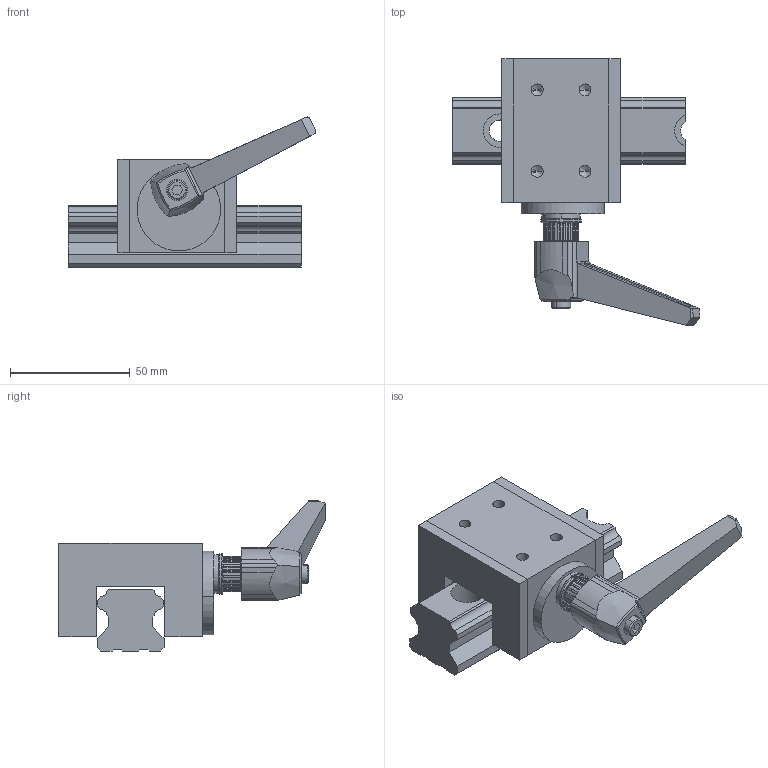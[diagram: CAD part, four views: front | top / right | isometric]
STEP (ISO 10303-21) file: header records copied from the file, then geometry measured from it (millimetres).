
FILE_DESCRIPTION (( 'STEP AP203' ), '1' );
FILE_NAME ('TRAVA TRILHO 30.STEP', '2023-09-14T18:35:54', ( '' ), ( '' ), 'SwSTEP 2.0', 'SolidWorks 2019', '' );
FILE_SCHEMA (( 'CONFIG_CONTROL_DESIGN' ));
Length unit declared in the file: millimetre
Products named in the file (8): BLOCO; KR30-N; spring lock washer 2_din_DIN 6905-9.3-FSt; Peça20^TRAVA TRILHO 30; BN_14189_1870858_adjustable_handle_41521; plain washer 6902 type abc_din_DIN 6902-A7.4; MOEDA; TRAVA TRILHO 30
Assembly tree (8 placements, depth 2):
  TRAVA TRILHO 30
    KR30-N
    BLOCO
    MOEDA
    BN_14189_1870858_adjustable_handle_41521
    plain washer 6902 type abc_din_DIN 6902-A7.4
    spring lock washer 2_din_DIN 6905-9.3-FSt
    Peça20^TRAVA TRILHO 30  x2
Bounding box: 103.51 x 111.36 x 62.71 mm (x, y, z)
Volume: 159761.6 mm3; surface area: 45952.2 mm2
Topology: 8 solids, 8 shells, 291 faces, 787 edges, 516 vertices
Faces by surface type: plane 152, cylinder 97, cone 38, torus 4
Entity records: 9973 total; most frequent: CARTESIAN_POINT 2028, ORIENTED_EDGE 1510, DIRECTION 1457, EDGE_CURVE 755, AXIS2_PLACEMENT_3D 509, VERTEX_POINT 500, LINE 439, VECTOR 439
